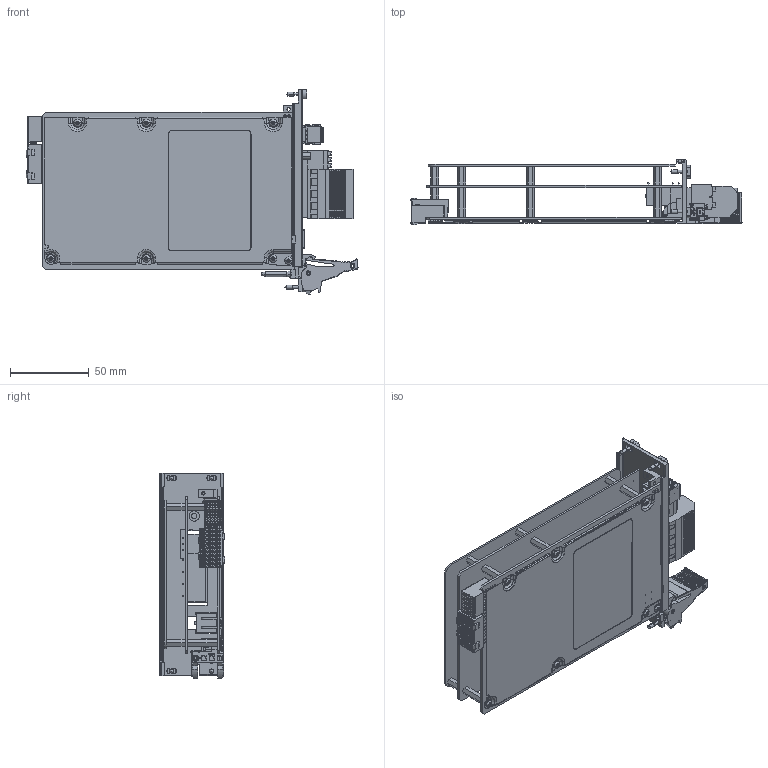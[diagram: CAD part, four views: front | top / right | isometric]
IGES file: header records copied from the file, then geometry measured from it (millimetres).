
Start section:  PTC IGES file: cu_pxie-4150_788176-01.igs
Global section: file name: cu_pxie-4150_788176-01.igs; native system: Creo Parametric by PTC Inc.; preprocessor: 2021063; author: dkendric; organization: Unknown; date: 20240927.151850; units: millimetre
Bounding box: 210.74 x 41.34 x 130.5 mm (x, y, z)
Surface area: 168897.1 mm2 (no closed solid volume)
Topology: 0 solids, 0 shells, 7506 faces, 38964 edges, 38883 vertices
Faces by surface type: bspline 5463, revolution 1999, extrusion 44
